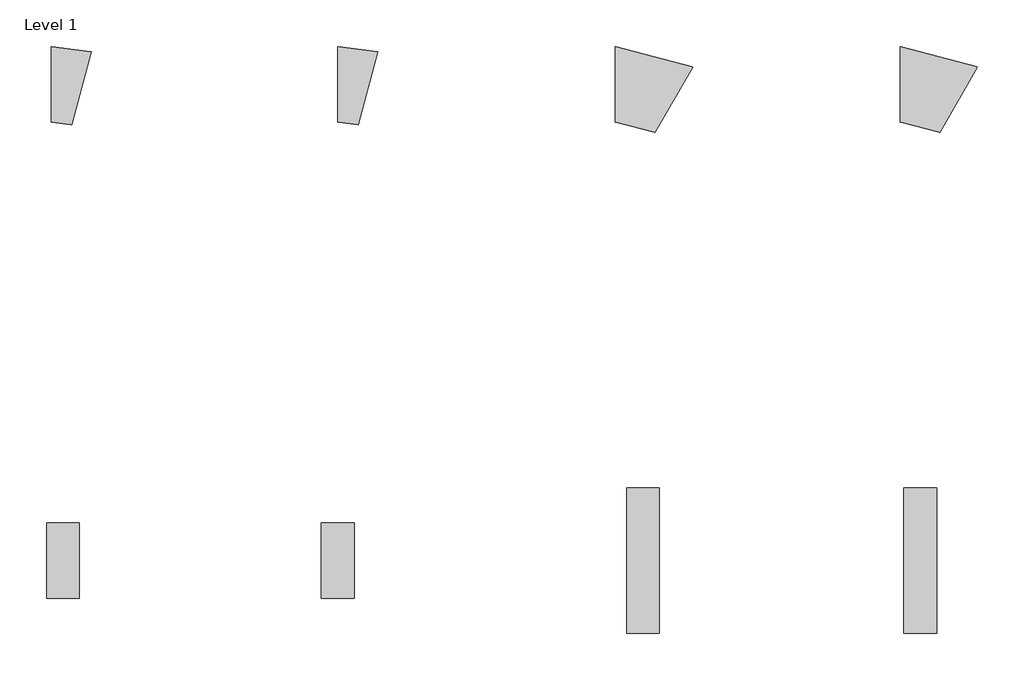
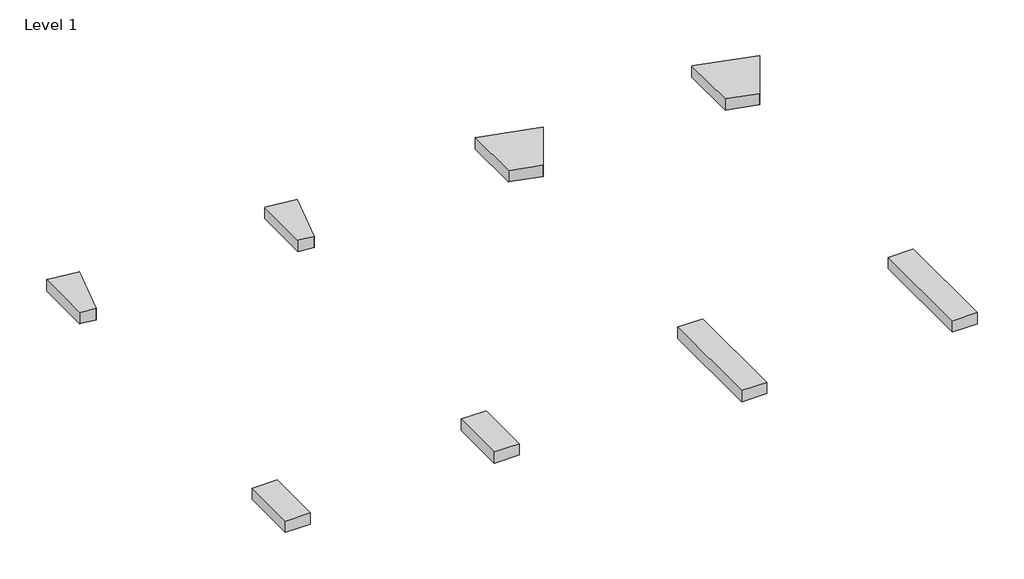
# One storey, incomplete: 8 furniture elements.
"""IFC4 building model written with IfcOpenShell, lengths in millimetres."""

from ifc_helpers import new_model, si_unit, origin, place, context, project, spatial, transform, mapped, element, save
from components import furniture_ce6262a8, furniture_f57708da, furniture_33f25df0, furniture_4a6c68fe

model = new_model("IFC4")

# Units and contexts
model_context = context("Model", 3, world=origin())
ifc_project = project(units=[si_unit("LENGTHUNIT", "METRE", prefix="MILLI")], contexts=[model_context])

# Site, building, storey
site = spatial("IfcSite", under=ifc_project)
building = spatial("IfcBuilding", under=site)
storey = spatial("IfcBuildingStorey", under=building, Name="Level 1", Elevation=0.0)

# Furniture
placement = place(None, origin())
furniture_shape = furniture_ce6262a8(model_context)
element("IfcFurniture", 1, ObjectType="StanceHC-Flora-Narrow_Wedge_Connecting_Table : FATR15WC-P", at=placement, inside=storey, context=model_context, shape_type="MappedRepresentation", body=[
    mapped(furniture_shape, transform((-14706.5920684, -75663.4831345, 0.0), x_axis=(1.0, 0.0, 0.0), y_axis=(0.0, 1.0, 0.0), z_axis=(0.0, 0.0, 1.0))),
])
element("IfcFurniture", 2, ObjectType="StanceHC-Flora-Narrow_Wedge_Connecting_Table : FATR15WC-S", at=placement, inside=storey, context=model_context, shape_type="MappedRepresentation", body=[
    mapped(furniture_shape, transform((-11938.7162627, -75663.4831345, 0.0), x_axis=(1.0, 0.0, 0.0), y_axis=(0.0, 1.0, 0.0), z_axis=(0.0, 0.0, 1.0))),
])
furniture_2_shape = furniture_f57708da(model_context)
element("IfcFurniture", 3, ObjectType="StanceHC-Flora-Narrow_Wedge_Connecting_Table : FATR30WC-P", at=placement, inside=storey, context=model_context, shape_type="MappedRepresentation", body=[
    mapped(furniture_2_shape, transform((-9262.0891099, -75663.4831345, 0.0), x_axis=(1.0, 0.0, 0.0), y_axis=(0.0, 1.0, 0.0), z_axis=(0.0, 0.0, 1.0))),
])
element("IfcFurniture", 4, ObjectType="StanceHC-Flora-Narrow_Wedge_Connecting_Table : FATR30WC-S", at=placement, inside=storey, context=model_context, shape_type="MappedRepresentation", body=[
    mapped(furniture_2_shape, transform((-6512.0074726, -75663.4831345, 0.0), x_axis=(1.0, 0.0, 0.0), y_axis=(0.0, 1.0, 0.0), z_axis=(0.0, 0.0, 1.0))),
])
furniture_3_shape = furniture_33f25df0(model_context)
element("IfcFurniture", 5, ObjectType="StanceHC-Flora-Spacer_Table : FAT13296C-P", at=placement, inside=storey, context=model_context, shape_type="MappedRepresentation", body=[
    mapped(furniture_3_shape, transform((-14591.6160101, -80262.5641775, 0.0), x_axis=(1.0, 0.0, 0.0), y_axis=(0.0, 1.0, 0.0), z_axis=(0.0, 0.0, 1.0))),
])
furniture_4_shape = furniture_4a6c68fe(model_context)
element("IfcFurniture", 6, ObjectType="StanceHC-Flora-Spacer_Table : FAT13566C-P", at=placement, inside=storey, context=model_context, shape_type="MappedRepresentation", body=[
    mapped(furniture_4_shape, transform((-8993.9284152, -80262.5641775, 0.0), x_axis=(1.0, 0.0, 0.0), y_axis=(0.0, 1.0, 0.0), z_axis=(0.0, 0.0, 1.0))),
])
element("IfcFurniture", 7, ObjectType="StanceHC-Flora-Spacer_Table : FAT13296C-S", at=placement, inside=storey, context=model_context, shape_type="MappedRepresentation", body=[
    mapped(furniture_3_shape, transform((-11938.7162627, -80262.5641775, 0.0), x_axis=(1.0, 0.0, 0.0), y_axis=(0.0, 1.0, 0.0), z_axis=(0.0, 0.0, 1.0))),
])
element("IfcFurniture", 8, ObjectType="StanceHC-Flora-Spacer_Table : FAT13566C-S", at=placement, inside=storey, context=model_context, shape_type="MappedRepresentation", body=[
    mapped(furniture_4_shape, transform((-6317.6480874, -80262.5641775, 0.0), x_axis=(1.0, 0.0, 0.0), y_axis=(0.0, 1.0, 0.0), z_axis=(0.0, 0.0, 1.0))),
])

save(model, "model.ifc")
